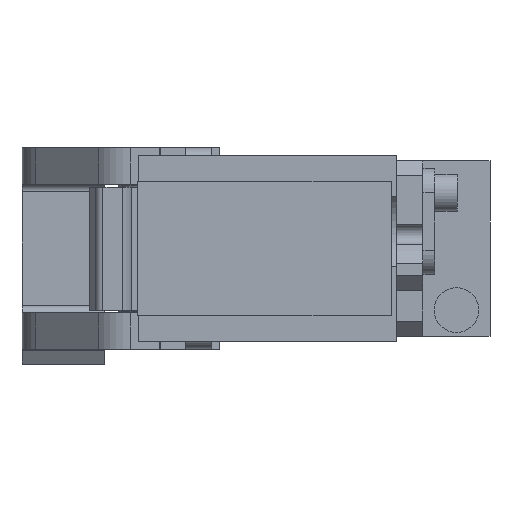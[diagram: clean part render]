
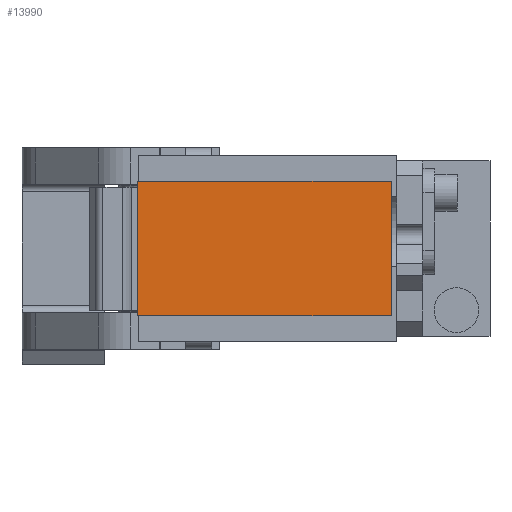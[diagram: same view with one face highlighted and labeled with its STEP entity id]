
A CAD part, front view. The second image highlights one B-rep face of the part: STEP entity #13990.
In plain terms, the highlighted planar face has unit normal (0, -1, 0).
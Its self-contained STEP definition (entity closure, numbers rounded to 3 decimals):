
#125 = VECTOR ( 'NONE', #2559, 1000. ) ;
#904 = FACE_OUTER_BOUND ( 'NONE', #2638, .T. ) ;
#1205 = CARTESIAN_POINT ( 'NONE',  ( -6., -233., -18. ) ) ;
#1743 = LINE ( 'NONE', #6241, #3651 ) ;
#1754 = ORIENTED_EDGE ( 'NONE', *, *, #4917, .T. ) ;
#2287 = PLANE ( 'NONE',  #3952 ) ;
#2489 = LINE ( 'NONE', #5616, #125 ) ;
#2559 = DIRECTION ( 'NONE',  ( 0., 0., 1. ) ) ;
#2638 = EDGE_LOOP ( 'NONE', ( #1754, #5824, #8344, #3357 ) ) ;
#2773 = CARTESIAN_POINT ( 'NONE',  ( -6., -233., 18. ) ) ;
#3357 = ORIENTED_EDGE ( 'NONE', *, *, #13595, .T. ) ;
#3563 = EDGE_CURVE ( 'NONE', #10322, #9827, #6499, .T. ) ;
#3651 = VECTOR ( 'NONE', #10617, 1000. ) ;
#3952 = AXIS2_PLACEMENT_3D ( 'NONE', #10879, #6556, #5480 ) ;
#4917 = EDGE_CURVE ( 'NONE', #10469, #10322, #1743, .T. ) ;
#5480 = DIRECTION ( 'NONE',  ( 0., 0., -1. ) ) ;
#5616 = CARTESIAN_POINT ( 'NONE',  ( 62., -233., 18. ) ) ;
#5824 = ORIENTED_EDGE ( 'NONE', *, *, #3563, .T. ) ;
#6102 = DIRECTION ( 'NONE',  ( -1., 0., 0. ) ) ;
#6241 = CARTESIAN_POINT ( 'NONE',  ( -6., -233., 18. ) ) ;
#6470 = CARTESIAN_POINT ( 'NONE',  ( -6., -233., 18. ) ) ;
#6499 = LINE ( 'NONE', #1205, #7403 ) ;
#6556 = DIRECTION ( 'NONE',  ( 0., -1., 0. ) ) ;
#6715 = DIRECTION ( 'NONE',  ( 1., 0., 0. ) ) ;
#7403 = VECTOR ( 'NONE', #6715, 1000. ) ;
#7934 = EDGE_CURVE ( 'NONE', #9827, #13036, #2489, .T. ) ;
#8344 = ORIENTED_EDGE ( 'NONE', *, *, #7934, .T. ) ;
#8712 = CARTESIAN_POINT ( 'NONE',  ( 62., -233., 18. ) ) ;
#9827 = VERTEX_POINT ( 'NONE', #13413 ) ;
#10322 = VERTEX_POINT ( 'NONE', #11305 ) ;
#10469 = VERTEX_POINT ( 'NONE', #6470 ) ;
#10617 = DIRECTION ( 'NONE',  ( 0., 0., -1. ) ) ;
#10879 = CARTESIAN_POINT ( 'NONE',  ( 0., -233., 0. ) ) ;
#11305 = CARTESIAN_POINT ( 'NONE',  ( -6., -233., -18. ) ) ;
#13036 = VERTEX_POINT ( 'NONE', #8712 ) ;
#13413 = CARTESIAN_POINT ( 'NONE',  ( 62., -233., -18. ) ) ;
#13533 = VECTOR ( 'NONE', #6102, 1000. ) ;
#13595 = EDGE_CURVE ( 'NONE', #13036, #10469, #13809, .T. ) ;
#13809 = LINE ( 'NONE', #2773, #13533 ) ;
#13990 = ADVANCED_FACE ( 'NONE', ( #904 ), #2287, .T. ) ;
